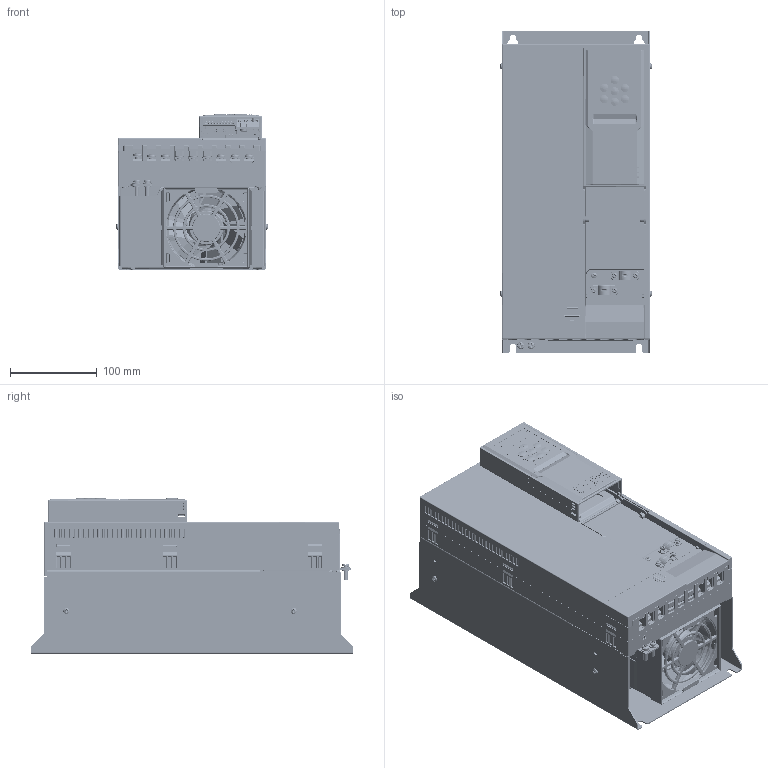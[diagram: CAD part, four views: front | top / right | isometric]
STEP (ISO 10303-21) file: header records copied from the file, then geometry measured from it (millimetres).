
FILE_DESCRIPTION((''),'2;1');
FILE_NAME('AD800-D4-DRIVE_ASM','2025-06-24T16:41:58',('wendong.luo'),(''),'CREO PARAMETRIC BY PTC INC, 2024374','CREO PARAMETRIC BY PTC INC, 2024374','');
FILE_SCHEMA(('CONFIG_CONTROL_DESIGN','GEOMETRIC_VALIDATION_PROPERTIES_MIM'));
Products named in the file (29): D4-MECHANICAL-PART; M0100011; M0100015; M0203012; E0400030; M0202007; M0202003; M0202000; M0104022; M0104021; FAN9238; FAN-ASM-9238_ASM; E0400047; D4-PU_ASM; M0104033; E0100084; E0400023; E0400008; E0400009; E0400001; E0400011; E0100084_ASM; M0203006; M0203025; M0203032_00; M0104034; M0203053; CU_NEW_ASM; AD800-D4-DRIVE_ASM
Assembly tree (38 placements, depth 4):
  AD800-D4-DRIVE_ASM
    D4-PU_ASM
      D4-MECHANICAL-PART
      M0100011
      M0100015  x2
      M0203012
      E0400030
      M0202007  x2
      M0202003  x4
      M0202000  x5
      M0104022
      FAN-ASM-9238_ASM
        M0104021
        FAN9238
      E0400047
    CU_NEW_ASM
      M0104033
      E0100084_ASM
        E0100084
        E0400023
        E0400008
        E0400009  x2
        E0400001
        E0400011
      M0203006
      M0203025
      M0203032_00
      M0104034
      M0203053
Bounding box: 175.03 x 370 x 179.35 mm (x, y, z)
Volume: 7068547.4 mm3; surface area: 844938.4 mm2
Topology: 51 solids, 81 shells, 17639 faces, 47049 edges, 30373 vertices
Faces by surface type: plane 9146, cylinder 3268, extrusion 2223, bspline 2182, cone 525, torus 195, sphere 100
Entity records: 762797 total; most frequent: CARTESIAN_POINT 228449, ORIENTED_EDGE 85534, DIRECTION 64665, PRESENTATION_STYLE_ASSIGNMENT 44453, EDGE_CURVE 42801, STYLED_ITEM 42304, CURVE_STYLE 41841, VECTOR 29321
